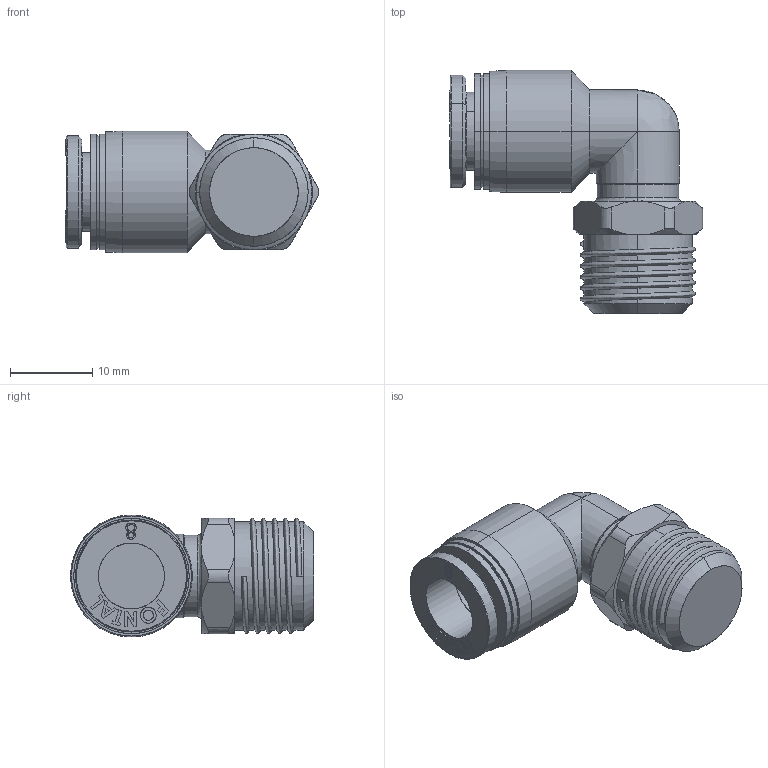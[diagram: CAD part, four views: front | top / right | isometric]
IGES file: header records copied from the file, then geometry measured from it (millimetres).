
Start section: SolidWorks IGES file using analytic representation for surfaces
Global section: file name: D:\Custom\3D繪製\ADDITIONAL\FPL\FPL8-02.IGS,1; native system: 5HSolidWorks 2014; preprocessor: SolidWorks 2014; author: Chieh_Lu; date: 160115.050348; units: millimetre
Bounding box: 30.73 x 29.5 x 14.8 mm (x, y, z)
Surface area: 3260.1 mm2 (no closed solid volume)
Topology: 0 solids, 0 shells, 176 faces, 2218 edges, 2209 vertices
Faces by surface type: bspline 113, revolution 63
